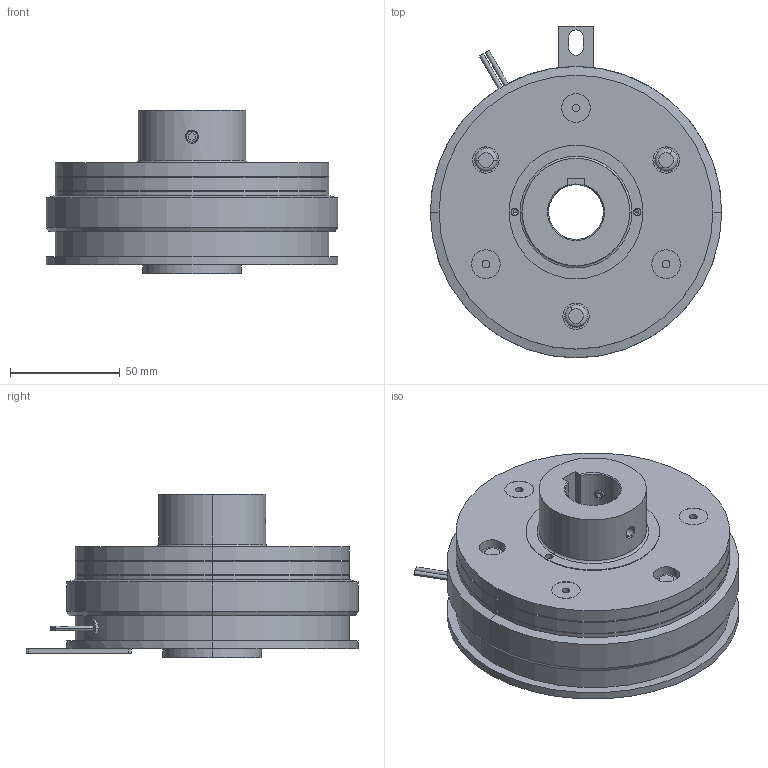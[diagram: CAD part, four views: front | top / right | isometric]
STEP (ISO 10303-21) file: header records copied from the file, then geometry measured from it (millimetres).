
FILE_DESCRIPTION (( 'STEP AP214' ), '1' );
FILE_NAME ('CS-12-31G R25DIN A25DIN.STEP', '2018-02-09T06:37:11', ( 'MIKI' ), ( '' ), 'SwSTEP 2.0', 'SolidWorks 2012', '' );
FILE_SCHEMA (( 'AUTOMOTIVE_DESIGN' ));
Length unit declared in the file: millimetre
Products named in the file (1): CS-12-31G R25DIN A25DIN
Bounding box: 133 x 151.5 x 74.5 mm (x, y, z)
Volume: 587927.5 mm3; surface area: 88733 mm2
Topology: 1 solids, 5 shells, 247 faces, 540 edges, 336 vertices
Faces by surface type: cylinder 114, plane 75, cone 44, torus 14
Entity records: 9829 total; most frequent: CARTESIAN_POINT 1476, DIRECTION 1286, ORIENTED_EDGE 1056, AXIS2_PLACEMENT_3D 528, EDGE_CURVE 528, VERTEX_POINT 336, EDGE_LOOP 302, CIRCLE 280
